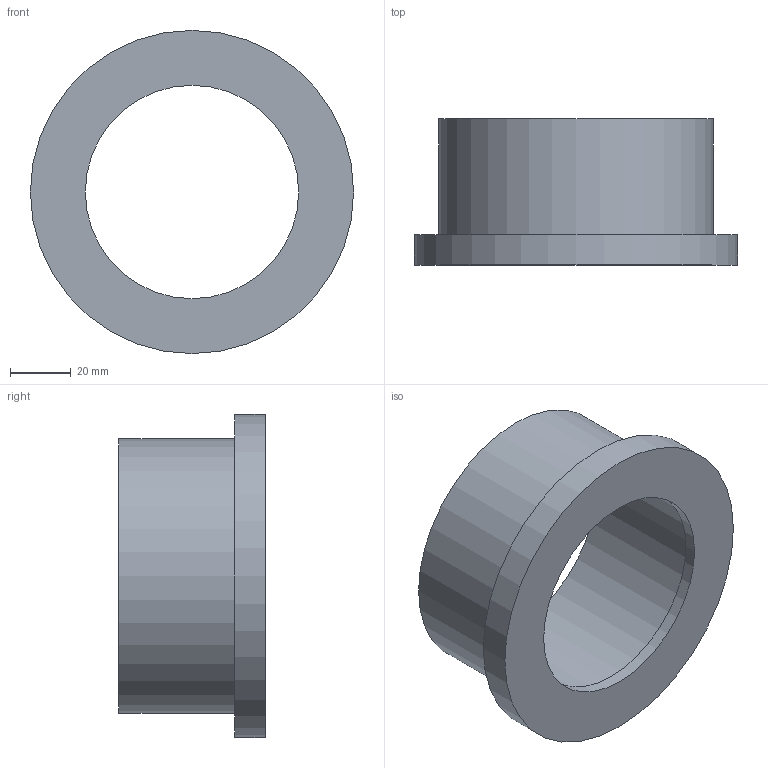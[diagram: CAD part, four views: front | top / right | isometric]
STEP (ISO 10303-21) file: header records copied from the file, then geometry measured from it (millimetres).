
FILE_DESCRIPTION(/* description */ ('PVC collare rigato incollaggio metrico'),/* implementation_level */ '2;1');
FILE_NAME(/* name */ 'C:\Users\POLYPIPE\Desktop\DATASET INVENTOR\LIBRERIA EFFAST\RACCORDI 3DxWEB\RDR\3D_RDRQRD\3D_RDRQRD0750.stp',/* time_stamp */ '2018-01-19T15:25:51+01:00',/* author */ ('POLYPIPE'),/* organization */ ('Polypipe Italia s.r.l.'),/* preprocessor_version */ 'ST-DEVELOPER v16.1',/* originating_system */ 'Autodesk Inventor 2016',/* authorisation */ '');
FILE_SCHEMA (('CONFIG_CONTROL_DESIGN'));
Length unit declared in the file: millimetre
Products named in the file (1): 3D_RDRQRD
Bounding box: 106 x 48 x 106 mm (x, y, z)
Volume: 120213 mm3; surface area: 35273.8 mm2
Topology: 1 solids, 1 shells, 8 faces, 12 edges, 8 vertices
Faces by surface type: plane 4, cylinder 4
Full cylindrical faces by diameter (mm): 70 x1, 75 x1, 90 x1, 106 x1
Entity records: 192 total; most frequent: DIRECTION 34, CARTESIAN_POINT 25, AXIS2_PLACEMENT_3D 17, EDGE_LOOP 16, ORIENTED_EDGE 16, FACE_BOUND 8, FACE_OUTER_BOUND 8, CIRCLE 8
